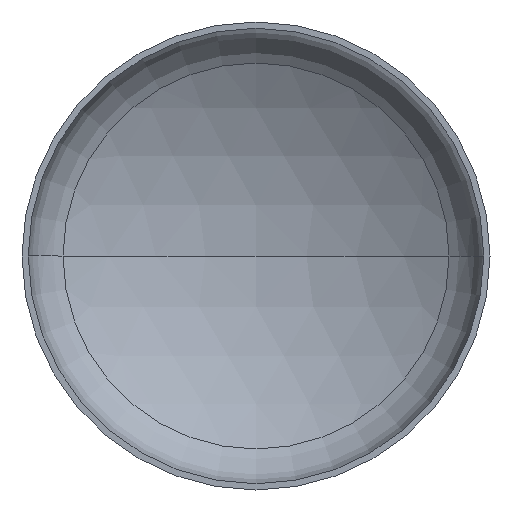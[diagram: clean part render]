
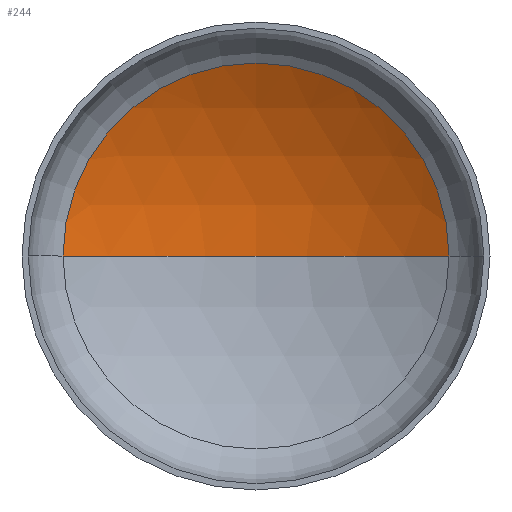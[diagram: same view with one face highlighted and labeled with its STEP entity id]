
A CAD part, front view. The second image highlights one B-rep face of the part: STEP entity #244.
In plain terms, the highlighted spherical face has radius 2560 mm.
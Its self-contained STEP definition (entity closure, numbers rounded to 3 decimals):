
#8 = DIRECTION ( 'NONE',  ( -1., 0., 0. ) ) ;
#13 = EDGE_LOOP ( 'NONE', ( #107, #17, #129 ) ) ;
#15 = AXIS2_PLACEMENT_3D ( 'NONE', #155, #329, #8 ) ;
#17 = ORIENTED_EDGE ( 'NONE', *, *, #356, .T. ) ;
#18 = AXIS2_PLACEMENT_3D ( 'NONE', #402, #264, #267 ) ;
#24 = DIRECTION ( 'NONE',  ( 0., 0., -1. ) ) ;
#34 = VERTEX_POINT ( 'NONE', #261 ) ;
#46 = DIRECTION ( 'NONE',  ( 0., 0., 1. ) ) ;
#47 = AXIS2_PLACEMENT_3D ( 'NONE', #52, #24, #359 ) ;
#52 = CARTESIAN_POINT ( 'NONE',  ( 0., -1643.813, 0. ) ) ;
#86 = VERTEX_POINT ( 'NONE', #254 ) ;
#97 = AXIS2_PLACEMENT_3D ( 'NONE', #270, #46, #287 ) ;
#107 = ORIENTED_EDGE ( 'NONE', *, *, #394, .F. ) ;
#123 = CIRCLE ( 'NONE', #15, 2560. ) ;
#129 = ORIENTED_EDGE ( 'NONE', *, *, #353, .T. ) ;
#155 = CARTESIAN_POINT ( 'NONE',  ( 0., -1643.813, 0. ) ) ;
#178 = CIRCLE ( 'NONE', #97, 2560. ) ;
#200 = CIRCLE ( 'NONE', #18, 1319.575 ) ;
#221 = CARTESIAN_POINT ( 'NONE',  ( 1319.575, 549.888, 0. ) ) ;
#244 = ADVANCED_FACE ( 'NONE', ( #403 ), #285, .F. ) ;
#254 = CARTESIAN_POINT ( 'NONE',  ( 0., 916.187, 0. ) ) ;
#261 = CARTESIAN_POINT ( 'NONE',  ( -1319.575, 549.888, 0. ) ) ;
#264 = DIRECTION ( 'NONE',  ( 0., -1., 0. ) ) ;
#267 = DIRECTION ( 'NONE',  ( 1., 0., 0. ) ) ;
#270 = CARTESIAN_POINT ( 'NONE',  ( 0., -1643.813, 0. ) ) ;
#275 = VERTEX_POINT ( 'NONE', #221 ) ;
#285 = SPHERICAL_SURFACE ( 'NONE', #47, 2560. ) ;
#287 = DIRECTION ( 'NONE',  ( 1., 0., 0. ) ) ;
#329 = DIRECTION ( 'NONE',  ( 0., 0., -1. ) ) ;
#353 = EDGE_CURVE ( 'NONE', #275, #34, #200, .T. ) ;
#356 = EDGE_CURVE ( 'NONE', #86, #275, #123, .T. ) ;
#359 = DIRECTION ( 'NONE',  ( -1., 0., 0. ) ) ;
#394 = EDGE_CURVE ( 'NONE', #86, #34, #178, .T. ) ;
#402 = CARTESIAN_POINT ( 'NONE',  ( 0., 549.888, 0. ) ) ;
#403 = FACE_OUTER_BOUND ( 'NONE', #13, .T. ) ;
